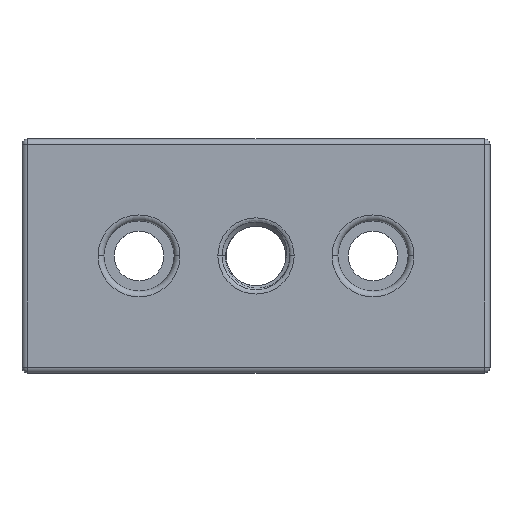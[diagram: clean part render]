
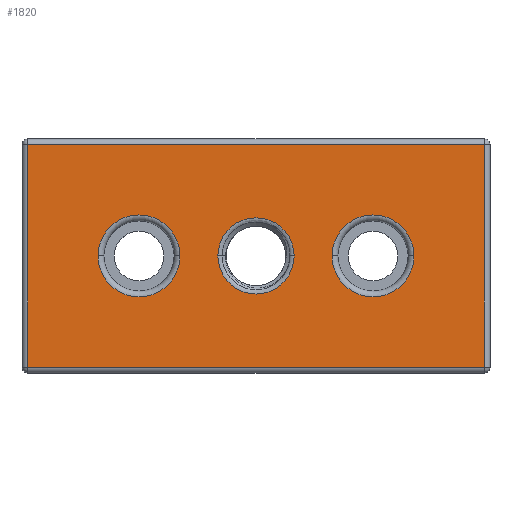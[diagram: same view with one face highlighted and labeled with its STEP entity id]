
A CAD part, top view. The second image highlights one B-rep face of the part: STEP entity #1820.
In plain terms, the highlighted planar face has unit normal (0, 0, 1).
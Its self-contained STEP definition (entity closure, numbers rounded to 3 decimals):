
#9 = FACE_OUTER_BOUND ( 'NONE', #2092, .T. ) ;
#45 = CIRCLE ( 'NONE', #188, 7. ) ;
#62 = CARTESIAN_POINT ( 'NONE',  ( -40., 19., 6. ) ) ;
#81 = CARTESIAN_POINT ( 'NONE',  ( -39., -20., 6. ) ) ;
#91 = DIRECTION ( 'NONE',  ( 1., 0., 0. ) ) ;
#118 = ORIENTED_EDGE ( 'NONE', *, *, #557, .T. ) ;
#123 = ORIENTED_EDGE ( 'NONE', *, *, #519, .T. ) ;
#171 = FACE_BOUND ( 'NONE', #2913, .T. ) ;
#188 = AXIS2_PLACEMENT_3D ( 'NONE', #704, #396, #91 ) ;
#197 = ORIENTED_EDGE ( 'NONE', *, *, #1443, .T. ) ;
#214 = CIRCLE ( 'NONE', #2579, 6.514 ) ;
#270 = CARTESIAN_POINT ( 'NONE',  ( 6.514, 0., 6. ) ) ;
#281 = DIRECTION ( 'NONE',  ( 1., 0., 0. ) ) ;
#282 = CIRCLE ( 'NONE', #2928, 6.514 ) ;
#294 = DIRECTION ( 'NONE',  ( 0., 0., -1. ) ) ;
#299 = DIRECTION ( 'NONE',  ( 1., 0., 0. ) ) ;
#318 = AXIS2_PLACEMENT_3D ( 'NONE', #912, #581, #281 ) ;
#363 = VECTOR ( 'NONE', #2350, 1000. ) ;
#367 = LINE ( 'NONE', #62, #651 ) ;
#387 = LINE ( 'NONE', #81, #2042 ) ;
#396 = DIRECTION ( 'NONE',  ( 0., 0., -1. ) ) ;
#479 = ORIENTED_EDGE ( 'NONE', *, *, #916, .T. ) ;
#519 = EDGE_CURVE ( 'NONE', #952, #2968, #860, .T. ) ;
#557 = EDGE_CURVE ( 'NONE', #2515, #1354, #282, .T. ) ;
#581 = DIRECTION ( 'NONE',  ( 0., 0., 1. ) ) ;
#595 = CARTESIAN_POINT ( 'NONE',  ( 0., 0., 6. ) ) ;
#603 = DIRECTION ( 'NONE',  ( 0., 0., -1. ) ) ;
#643 = VERTEX_POINT ( 'NONE', #1113 ) ;
#651 = VECTOR ( 'NONE', #2807, 1000. ) ;
#699 = EDGE_CURVE ( 'NONE', #1354, #2515, #214, .T. ) ;
#704 = CARTESIAN_POINT ( 'NONE',  ( -20., 0., 6. ) ) ;
#720 = VERTEX_POINT ( 'NONE', #2332 ) ;
#778 = DIRECTION ( 'NONE',  ( 1., 0., 0. ) ) ;
#799 = VERTEX_POINT ( 'NONE', #2657 ) ;
#803 = CARTESIAN_POINT ( 'NONE',  ( -39., 19., 6. ) ) ;
#804 = DIRECTION ( 'NONE',  ( 1., 0., 0. ) ) ;
#831 = VERTEX_POINT ( 'NONE', #2585 ) ;
#860 = LINE ( 'NONE', #2636, #363 ) ;
#912 = CARTESIAN_POINT ( 'NONE',  ( 0., 0., 6. ) ) ;
#916 = EDGE_CURVE ( 'NONE', #720, #799, #45, .T. ) ;
#930 = CARTESIAN_POINT ( 'NONE',  ( -20., 0., 6. ) ) ;
#952 = VERTEX_POINT ( 'NONE', #1149 ) ;
#977 = EDGE_CURVE ( 'NONE', #643, #952, #2567, .T. ) ;
#999 = ORIENTED_EDGE ( 'NONE', *, *, #1962, .T. ) ;
#1068 = CIRCLE ( 'NONE', #1143, 7. ) ;
#1105 = DIRECTION ( 'NONE',  ( 0., 0., -1. ) ) ;
#1113 = CARTESIAN_POINT ( 'NONE',  ( -39., -19., 6. ) ) ;
#1132 = DIRECTION ( 'NONE',  ( 0., 0., -1. ) ) ;
#1143 = AXIS2_PLACEMENT_3D ( 'NONE', #930, #603, #299 ) ;
#1149 = CARTESIAN_POINT ( 'NONE',  ( 39., -19., 6. ) ) ;
#1216 = EDGE_CURVE ( 'NONE', #831, #2631, #2681, .T. ) ;
#1234 = DIRECTION ( 'NONE',  ( 1., 0., 0. ) ) ;
#1354 = VERTEX_POINT ( 'NONE', #2547 ) ;
#1392 = ORIENTED_EDGE ( 'NONE', *, *, #699, .T. ) ;
#1443 = EDGE_CURVE ( 'NONE', #2968, #2024, #367, .T. ) ;
#1451 = CARTESIAN_POINT ( 'NONE',  ( 0., 0., 6. ) ) ;
#1501 = ORIENTED_EDGE ( 'NONE', *, *, #1627, .T. ) ;
#1561 = PLANE ( 'NONE',  #318 ) ;
#1562 = DIRECTION ( 'NONE',  ( 0., 0., -1. ) ) ;
#1568 = ORIENTED_EDGE ( 'NONE', *, *, #1216, .T. ) ;
#1627 = EDGE_CURVE ( 'NONE', #2631, #831, #1767, .T. ) ;
#1639 = ORIENTED_EDGE ( 'NONE', *, *, #977, .T. ) ;
#1654 = AXIS2_PLACEMENT_3D ( 'NONE', #1880, #1562, #1234 ) ;
#1767 = CIRCLE ( 'NONE', #1977, 7. ) ;
#1820 = ADVANCED_FACE ( 'NONE', ( #2603, #2679, #9, #171 ), #1561, .T. ) ;
#1880 = CARTESIAN_POINT ( 'NONE',  ( 20., 0., 6. ) ) ;
#1928 = EDGE_CURVE ( 'NONE', #799, #720, #1068, .T. ) ;
#1962 = EDGE_CURVE ( 'NONE', #2024, #643, #387, .T. ) ;
#1966 = DIRECTION ( 'NONE',  ( 1., 0., 0. ) ) ;
#1977 = AXIS2_PLACEMENT_3D ( 'NONE', #2378, #1105, #778 ) ;
#2024 = VERTEX_POINT ( 'NONE', #803 ) ;
#2042 = VECTOR ( 'NONE', #2820, 1000. ) ;
#2092 = EDGE_LOOP ( 'NONE', ( #123, #197, #999, #1639 ) ) ;
#2110 = CARTESIAN_POINT ( 'NONE',  ( 27., 0., 6. ) ) ;
#2279 = CARTESIAN_POINT ( 'NONE',  ( 40., -19., 6. ) ) ;
#2332 = CARTESIAN_POINT ( 'NONE',  ( -27., 0., 6. ) ) ;
#2345 = CARTESIAN_POINT ( 'NONE',  ( 39., 19., 6. ) ) ;
#2350 = DIRECTION ( 'NONE',  ( 0., 1., 0. ) ) ;
#2378 = CARTESIAN_POINT ( 'NONE',  ( 20., 0., 6. ) ) ;
#2386 = VECTOR ( 'NONE', #1966, 1000. ) ;
#2515 = VERTEX_POINT ( 'NONE', #270 ) ;
#2547 = CARTESIAN_POINT ( 'NONE',  ( -6.514, 0., 6. ) ) ;
#2567 = LINE ( 'NONE', #2279, #2386 ) ;
#2579 = AXIS2_PLACEMENT_3D ( 'NONE', #1451, #1132, #804 ) ;
#2585 = CARTESIAN_POINT ( 'NONE',  ( 13., 0., 6. ) ) ;
#2603 = FACE_BOUND ( 'NONE', #2782, .T. ) ;
#2631 = VERTEX_POINT ( 'NONE', #2110 ) ;
#2636 = CARTESIAN_POINT ( 'NONE',  ( 39., 20., 6. ) ) ;
#2657 = CARTESIAN_POINT ( 'NONE',  ( -13., 0., 6. ) ) ;
#2679 = FACE_BOUND ( 'NONE', #2685, .T. ) ;
#2681 = CIRCLE ( 'NONE', #1654, 7. ) ;
#2685 = EDGE_LOOP ( 'NONE', ( #2985, #479 ) ) ;
#2782 = EDGE_LOOP ( 'NONE', ( #1501, #1568 ) ) ;
#2807 = DIRECTION ( 'NONE',  ( -1., 0., 0. ) ) ;
#2820 = DIRECTION ( 'NONE',  ( 0., -1., 0. ) ) ;
#2913 = EDGE_LOOP ( 'NONE', ( #118, #1392 ) ) ;
#2928 = AXIS2_PLACEMENT_3D ( 'NONE', #595, #294, #3029 ) ;
#2968 = VERTEX_POINT ( 'NONE', #2345 ) ;
#2985 = ORIENTED_EDGE ( 'NONE', *, *, #1928, .T. ) ;
#3029 = DIRECTION ( 'NONE',  ( 1., 0., 0. ) ) ;
